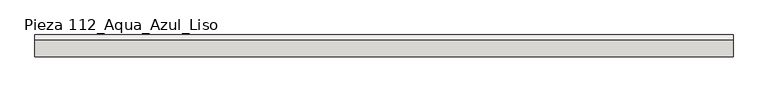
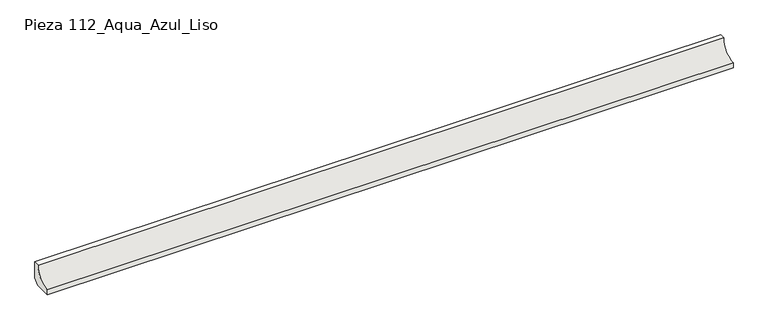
"""IFC4 building model written with IfcOpenShell, lengths in millimetres: slab geometry, ROSA GRES_112 : Pieza 112_Aqua_Azul_Liso."""

from ifc_helpers import new_model, si_unit, point, frame, frame_2d, origin, place, context, project, spatial, polyline, circle_curve, trimmed, segment, composite_curve, outline, extrude, source, transform, mapped, element, save


def pieza_112_aqua_azul_liso_2357ec52(model_context):
    return source(origin(), model_context, "Body", "SweptSolid", [
        extrude(outline(composite_curve([segment(polyline([(0.0, 8.7114978), (-8.7114978, 0.0), (-40.0, 0.0), (-40.0, 9.9734114)]), True, "CONTINUOUS"), segment(trimmed(circle_curve(frame_2d((-39.9955547, 39.9955547)), 30.0221435), [point((-40.0, 9.9734114))], [point((-9.9734114, 40.0))], True, "CARTESIAN"), True, "CONTINUOUS"), segment(polyline([(-9.9734114, 40.0), (0.0, 40.0), (0.0, 8.7114978)]), True, "CONTINUOUS")], self_intersect=False)), frame((0.0, 0.0, 0.0), z_axis=(1.0, 0.0, 0.0), x_axis=(0.0, 1.0, 0.0)), (0.0, 0.0, 1.0), 1270.0),
    ])


if __name__ == "__main__":
    model = new_model("IFC4")
    model_context = context("Model", 3, world=origin())
    ifc_project = project(units=[si_unit("LENGTHUNIT", "METRE", prefix="MILLI")], contexts=[model_context])
    site = spatial("IfcSite", under=ifc_project)
    building = spatial("IfcBuilding", under=site)
    placement = place(None, origin())
    pieza_112_aqua_azul_liso_shape = pieza_112_aqua_azul_liso_2357ec52(model_context)
    element("IfcSlab", 1, ObjectType="ROSA GRES_112 : Pieza 112_Aqua_Azul_Liso", at=placement, inside=building, context=model_context, shape_type="MappedRepresentation", body=[
        mapped(pieza_112_aqua_azul_liso_shape, transform((0.0, 0.0, 0.0), x_axis=(1.0, 0.0, 0.0), y_axis=(0.0, 1.0, 0.0), z_axis=(0.0, 0.0, 1.0))),
    ])
    save(model, "model.ifc")
